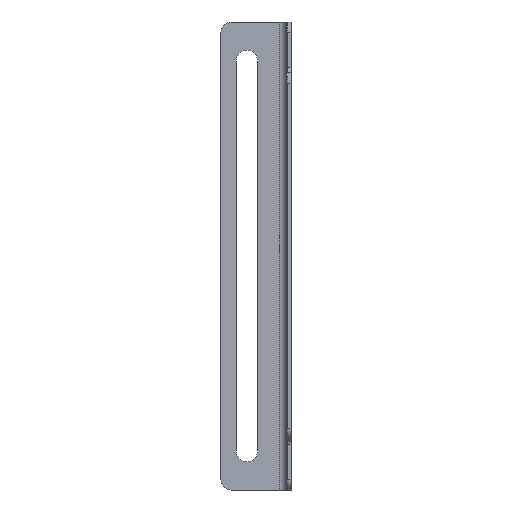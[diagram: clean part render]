
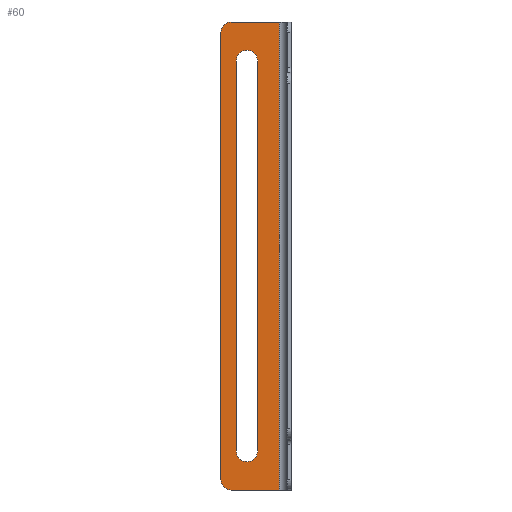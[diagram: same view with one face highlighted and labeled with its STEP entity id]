
A CAD part, left-side view. The second image highlights one B-rep face of the part: STEP entity #60.
In plain terms, the highlighted planar face has unit normal (-1, 0, 0).
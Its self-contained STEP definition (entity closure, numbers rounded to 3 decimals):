
#11 = AXIS2_PLACEMENT_3D ( 'NONE', #210, #912, #306 ) ;
#43 = VECTOR ( 'NONE', #872, 1000. ) ;
#45 = EDGE_CURVE ( 'NONE', #710, #299, #276, .T. ) ;
#56 = VERTEX_POINT ( 'NONE', #390 ) ;
#58 = VECTOR ( 'NONE', #1129, 1000. ) ;
#60 = ADVANCED_FACE ( 'NONE', ( #818, #516 ), #598, .F. ) ;
#78 = EDGE_LOOP ( 'NONE', ( #1166, #229, #169, #139, #939 ) ) ;
#93 = DIRECTION ( 'NONE',  ( -1., 0., 0. ) ) ;
#100 = CARTESIAN_POINT ( 'NONE',  ( 28.5, 21.1, 165. ) ) ;
#104 = ORIENTED_EDGE ( 'NONE', *, *, #377, .T. ) ;
#111 = LINE ( 'NONE', #312, #649 ) ;
#139 = ORIENTED_EDGE ( 'NONE', *, *, #863, .F. ) ;
#143 = CARTESIAN_POINT ( 'NONE',  ( 28.5, 4.5, 180. ) ) ;
#162 = VERTEX_POINT ( 'NONE', #1202 ) ;
#169 = ORIENTED_EDGE ( 'NONE', *, *, #452, .F. ) ;
#175 = CIRCLE ( 'NONE', #11, 4.1 ) ;
#193 = VERTEX_POINT ( 'NONE', #1045 ) ;
#210 = CARTESIAN_POINT ( 'NONE',  ( 28.5, 17., 15. ) ) ;
#229 = ORIENTED_EDGE ( 'NONE', *, *, #45, .F. ) ;
#276 = CIRCLE ( 'NONE', #1059, 4.1 ) ;
#299 = VERTEX_POINT ( 'NONE', #100 ) ;
#304 = DIRECTION ( 'NONE',  ( 0., 0., -1. ) ) ;
#306 = DIRECTION ( 'NONE',  ( 0., 1., 0. ) ) ;
#312 = CARTESIAN_POINT ( 'NONE',  ( 28.5, 21.1, 165. ) ) ;
#317 = LINE ( 'NONE', #1270, #43 ) ;
#324 = CARTESIAN_POINT ( 'NONE',  ( 28.5, 4.5, 180. ) ) ;
#327 = DIRECTION ( 'NONE',  ( -1., 0., 0. ) ) ;
#329 = LINE ( 'NONE', #626, #58 ) ;
#341 = DIRECTION ( 'NONE',  ( -1., 0., 0. ) ) ;
#377 = EDGE_CURVE ( 'NONE', #162, #684, #1086, .T. ) ;
#390 = CARTESIAN_POINT ( 'NONE',  ( 28.5, 17., 10.9 ) ) ;
#396 = AXIS2_PLACEMENT_3D ( 'NONE', #1097, #483, #1190 ) ;
#435 = VERTEX_POINT ( 'NONE', #945 ) ;
#448 = EDGE_CURVE ( 'NONE', #193, #56, #1054, .T. ) ;
#452 = EDGE_CURVE ( 'NONE', #1191, #710, #838, .T. ) ;
#464 = ORIENTED_EDGE ( 'NONE', *, *, #1285, .T. ) ;
#483 = DIRECTION ( 'NONE',  ( -1., 0., 0. ) ) ;
#504 = CARTESIAN_POINT ( 'NONE',  ( 28.5, 27., 180. ) ) ;
#507 = CARTESIAN_POINT ( 'NONE',  ( 28.5, 12.9, 15. ) ) ;
#512 = DIRECTION ( 'NONE',  ( 0., 1., 0. ) ) ;
#516 = FACE_OUTER_BOUND ( 'NONE', #1184, .T. ) ;
#560 = VECTOR ( 'NONE', #567, 1000. ) ;
#564 = VERTEX_POINT ( 'NONE', #143 ) ;
#567 = DIRECTION ( 'NONE',  ( 0., -1., 0. ) ) ;
#573 = VECTOR ( 'NONE', #1247, 1000. ) ;
#598 = PLANE ( 'NONE',  #1257 ) ;
#626 = CARTESIAN_POINT ( 'NONE',  ( 28.5, 4.5, 180. ) ) ;
#644 = AXIS2_PLACEMENT_3D ( 'NONE', #934, #327, #1038 ) ;
#649 = VECTOR ( 'NONE', #1021, 1000. ) ;
#655 = EDGE_CURVE ( 'NONE', #684, #435, #1102, .T. ) ;
#656 = CARTESIAN_POINT ( 'NONE',  ( 28.5, 23., 180. ) ) ;
#670 = VECTOR ( 'NONE', #304, 1000. ) ;
#679 = ORIENTED_EDGE ( 'NONE', *, *, #948, .F. ) ;
#684 = VERTEX_POINT ( 'NONE', #955 ) ;
#697 = DIRECTION ( 'NONE',  ( 1., 0., 0. ) ) ;
#704 = CARTESIAN_POINT ( 'NONE',  ( 28.5, 17., 165. ) ) ;
#710 = VERTEX_POINT ( 'NONE', #858 ) ;
#717 = VERTEX_POINT ( 'NONE', #656 ) ;
#801 = DIRECTION ( 'NONE',  ( 0., 1., 0. ) ) ;
#818 = FACE_BOUND ( 'NONE', #78, .T. ) ;
#838 = LINE ( 'NONE', #1047, #573 ) ;
#844 = ORIENTED_EDGE ( 'NONE', *, *, #655, .T. ) ;
#858 = CARTESIAN_POINT ( 'NONE',  ( 28.5, 12.9, 165. ) ) ;
#863 = EDGE_CURVE ( 'NONE', #56, #1191, #175, .T. ) ;
#872 = DIRECTION ( 'NONE',  ( 0., -1., 0. ) ) ;
#886 = EDGE_CURVE ( 'NONE', #299, #193, #111, .T. ) ;
#905 = ORIENTED_EDGE ( 'NONE', *, *, #1269, .F. ) ;
#912 = DIRECTION ( 'NONE',  ( -1., 0., 0. ) ) ;
#931 = VERTEX_POINT ( 'NONE', #1030 ) ;
#934 = CARTESIAN_POINT ( 'NONE',  ( 28.5, 23., 4. ) ) ;
#939 = ORIENTED_EDGE ( 'NONE', *, *, #448, .F. ) ;
#945 = CARTESIAN_POINT ( 'NONE',  ( 28.5, 4.5, 0. ) ) ;
#948 = EDGE_CURVE ( 'NONE', #717, #564, #317, .T. ) ;
#949 = CARTESIAN_POINT ( 'NONE',  ( 28.5, 17., 15. ) ) ;
#955 = CARTESIAN_POINT ( 'NONE',  ( 28.5, 23., 0. ) ) ;
#967 = LINE ( 'NONE', #504, #670 ) ;
#983 = AXIS2_PLACEMENT_3D ( 'NONE', #949, #341, #1051 ) ;
#1021 = DIRECTION ( 'NONE',  ( 0., 0., -1. ) ) ;
#1030 = CARTESIAN_POINT ( 'NONE',  ( 28.5, 27., 176. ) ) ;
#1038 = DIRECTION ( 'NONE',  ( 0., 1., 0. ) ) ;
#1045 = CARTESIAN_POINT ( 'NONE',  ( 28.5, 21.1, 15. ) ) ;
#1047 = CARTESIAN_POINT ( 'NONE',  ( 28.5, 12.9, 15. ) ) ;
#1051 = DIRECTION ( 'NONE',  ( 0., 1., 0. ) ) ;
#1054 = CIRCLE ( 'NONE', #983, 4.1 ) ;
#1059 = AXIS2_PLACEMENT_3D ( 'NONE', #704, #93, #801 ) ;
#1074 = CIRCLE ( 'NONE', #396, 4. ) ;
#1086 = CIRCLE ( 'NONE', #644, 4. ) ;
#1097 = CARTESIAN_POINT ( 'NONE',  ( 28.5, 23., 176. ) ) ;
#1102 = LINE ( 'NONE', #1176, #560 ) ;
#1129 = DIRECTION ( 'NONE',  ( 0., 0., -1. ) ) ;
#1158 = EDGE_CURVE ( 'NONE', #931, #162, #967, .T. ) ;
#1166 = ORIENTED_EDGE ( 'NONE', *, *, #886, .F. ) ;
#1176 = CARTESIAN_POINT ( 'NONE',  ( 28.5, 4.5, 0. ) ) ;
#1184 = EDGE_LOOP ( 'NONE', ( #679, #464, #1240, #104, #844, #905 ) ) ;
#1190 = DIRECTION ( 'NONE',  ( 0., 1., 0. ) ) ;
#1191 = VERTEX_POINT ( 'NONE', #507 ) ;
#1202 = CARTESIAN_POINT ( 'NONE',  ( 28.5, 27., 4. ) ) ;
#1240 = ORIENTED_EDGE ( 'NONE', *, *, #1158, .T. ) ;
#1247 = DIRECTION ( 'NONE',  ( 0., 0., 1. ) ) ;
#1257 = AXIS2_PLACEMENT_3D ( 'NONE', #324, #697, #512 ) ;
#1269 = EDGE_CURVE ( 'NONE', #564, #435, #329, .T. ) ;
#1270 = CARTESIAN_POINT ( 'NONE',  ( 28.5, 4.5, 180. ) ) ;
#1285 = EDGE_CURVE ( 'NONE', #717, #931, #1074, .T. ) ;
